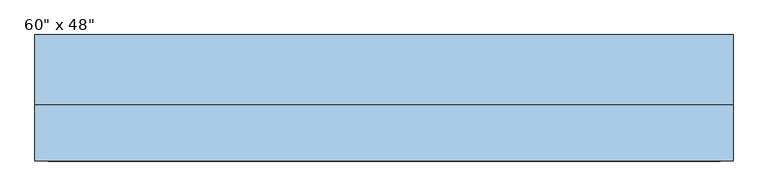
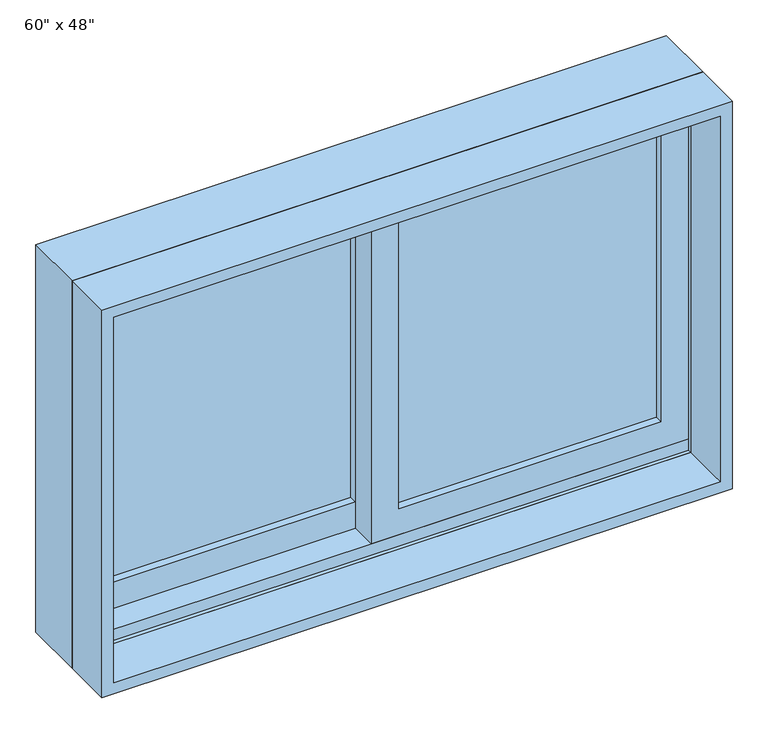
"""IFC4 building model written with IfcOpenShell, lengths in millimetres: window geometry."""

from ifc_helpers import new_model, si_unit, frame, origin, place, context, project, spatial, polyline, outline, extrude, faceted_brep, source, transform, mapped, element, save


def window_ab1deb64(model_context):
    return source(origin(), model_context, "Body", "SolidModel", [
        extrude(outline(polyline([(933.45, -488.95), (933.45, 22.225), (1555.75, 22.225), (1555.75, -488.95), (933.45, -488.95)]), holes=[polyline([(1511.3, -22.225), (996.95, -22.225), (996.95, -444.5), (1511.3, -444.5), (1511.3, -22.225)])]), frame((0.0, 46.99, 0.0), z_axis=(0.0, 1.0, 0.0), x_axis=(0.0, 0.0, 1.0)), (0.0, 0.0, 1.0), 44.45),
        extrude(outline(polyline([(952.5, 488.95), (1555.75, 488.95), (1555.75, -22.225), (952.5, -22.225), (952.5, 488.95)]), holes=[polyline([(996.95, 22.225), (1511.3, 22.225), (1511.3, 444.5), (996.95, 444.5), (996.95, 22.225)])]), frame((0.0, 2.54, 0.0), z_axis=(0.0, 1.0, 0.0), x_axis=(0.0, 0.0, 1.0)), (0.0, 0.0, 1.0), 44.45),
        faceted_brep([(-508.0, -3.81, 914.4), (-508.0, 97.79, 914.4), (508.0, 97.79, 914.4), (508.0, -3.81, 914.4), (-467.0778905, 97.79, 1533.8778905), (-467.0778905, 91.44, 1533.8778905), (-467.0778905, 91.44, 933.45), (-467.0778905, 97.79, 933.45), (467.0778905, 91.44, 1533.8778905), (467.0778905, 91.44, 933.45), (488.95, 91.44, 933.45), (488.95, 91.44, 1555.75), (-488.95, 91.44, 1555.75), (-488.95, 91.44, 933.45), (-488.95, -3.81, 1555.75), (-488.95, -3.81, 933.45), (-488.95, 2.54, 933.45), (-488.95, 2.54, 952.5), (-488.95, 46.99, 952.5), (-488.95, 46.99, 933.45), (508.0, -3.81, 1574.8), (-508.0, -3.81, 1574.8), (488.95, -3.81, 1555.75), (488.95, -3.81, 933.45), (-508.0, 97.79, 1574.8), (508.0, 97.79, 1574.8), (467.0778905, 97.79, 933.45), (467.0778905, 97.79, 1533.8778905), (488.95, 46.99, 933.45), (488.95, 46.99, 952.5), (488.95, 2.54, 952.5), (488.95, 2.54, 933.45)], [[[0, 1, 2, 3]], [[4, 5, 6, 7]], [[5, 8, 9, 10, 11, 12, 13, 6]], [[12, 14, 15, 16, 17, 18, 19, 13]], [[0, 3, 20, 21], [22, 23, 15, 14]], [[24, 1, 0, 21]], [[2, 1, 24, 25], [4, 7, 26, 27]], [[5, 4, 27, 8]], [[12, 11, 22, 14]], [[21, 20, 25, 24]], [[8, 27, 26, 9]], [[22, 11, 10, 28, 29, 30, 31, 23]], [[20, 3, 2, 25]], [[26, 7, 6, 13, 19, 28, 10, 9]], [[28, 19, 18, 29]], [[29, 18, 17, 30]], [[30, 17, 16, 31]], [[15, 23, 31, 16]]]),
        extrude(outline(polyline([(1574.8, -508.0), (914.4, -508.0), (914.4, 508.0), (1574.8, 508.0), (1574.8, -508.0)]), holes=[polyline([(1555.75, 488.95), (933.45, 488.95), (933.45, -488.95), (1555.75, -488.95), (1555.75, 488.95)])]), frame((0.0, -86.36, 0.0), z_axis=(0.0, 1.0, 0.0), x_axis=(0.0, 0.0, 1.0)), (0.0, 0.0, 1.0), 82.55),
        extrude(outline(polyline([(444.5, 34.29), (444.5, 27.94), (22.225, 27.94), (22.225, 34.29), (444.5, 34.29)])), frame((0.0, 0.0, 996.95), z_axis=(0.0, 0.0, 1.0), x_axis=(1.0, 0.0, 0.0)), (0.0, 0.0, 1.0), 514.35),
        extrude(outline(polyline([(444.5, 21.59), (444.5, 15.24), (22.225, 15.24), (22.225, 21.59), (444.5, 21.59)])), frame((0.0, 0.0, 996.95), z_axis=(0.0, 0.0, 1.0), x_axis=(1.0, 0.0, 0.0)), (0.0, 0.0, 1.0), 514.35),
        extrude(outline(polyline([(-22.225, 78.74), (-22.225, 72.39), (-444.5, 72.39), (-444.5, 78.74), (-22.225, 78.74)])), frame((0.0, 0.0, 996.95), z_axis=(0.0, 0.0, 1.0), x_axis=(1.0, 0.0, 0.0)), (0.0, 0.0, 1.0), 514.35),
        extrude(outline(polyline([(-22.225, 66.04), (-22.225, 59.69), (-444.5, 59.69), (-444.5, 66.04), (-22.225, 66.04)])), frame((0.0, 0.0, 996.95), z_axis=(0.0, 0.0, 1.0), x_axis=(1.0, 0.0, 0.0)), (0.0, 0.0, 1.0), 514.35),
    ])


if __name__ == "__main__":
    model = new_model("IFC4")
    model_context = context("Model", 3, world=origin())
    ifc_project = project(units=[si_unit("LENGTHUNIT", "METRE", prefix="MILLI")], contexts=[model_context])
    site = spatial("IfcSite", under=ifc_project)
    building = spatial("IfcBuilding", under=site)
    placement = place(None, origin())
    window_shape = window_ab1deb64(model_context)
    element("IfcWindow", 1, ObjectType="Planitar-Sliding-Double : 60\" x 48\"", at=placement, inside=building, context=model_context, shape_type="MappedRepresentation", body=[
        mapped(window_shape, transform((0.0, 0.0, 0.0), x_axis=(1.0, 0.0, 0.0), y_axis=(0.0, 1.0, 0.0), z_axis=(0.0, 0.0, 1.0))),
    ])
    save(model, "model.ifc")
